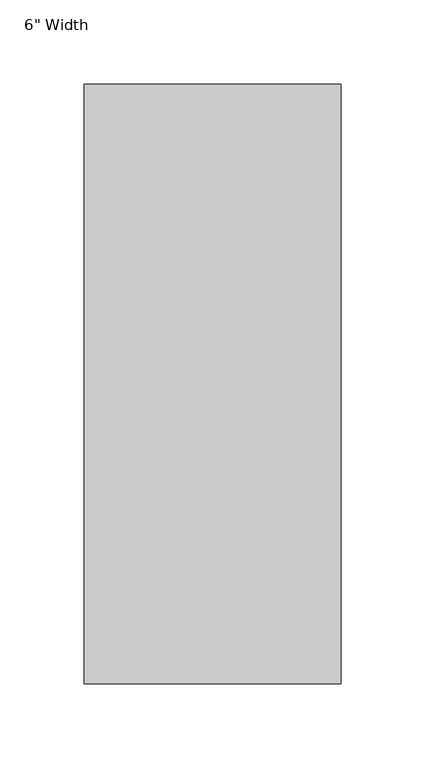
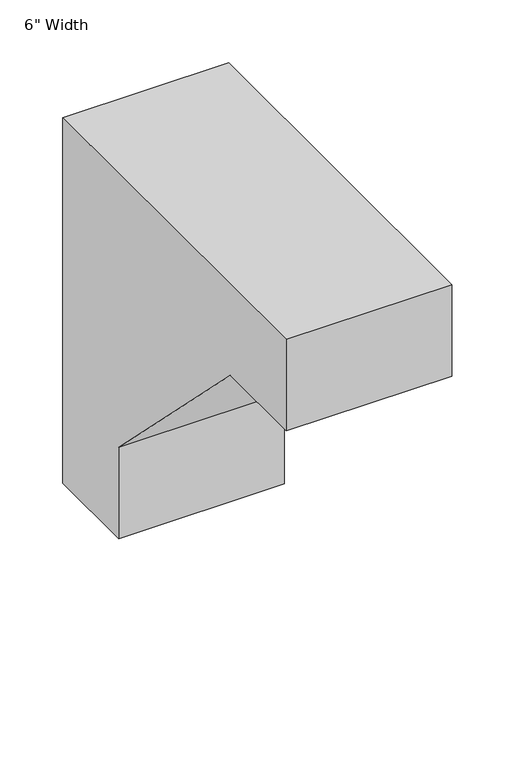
"""IFC4 building model written with IfcOpenShell, lengths in millimetres: proxy geometry."""

from ifc_helpers import new_model, si_unit, frame, origin, place, context, project, spatial, polyline, outline, extrude, source, transform, mapped, element, save


def proxy_4c7fc27a(model_context):
    return source(origin(), model_context, "Body", "SweptSolid", [
        extrude(outline(polyline([(-44.45, 88.9), (-222.25, 266.7), (-311.15, 266.7), (-311.15, 355.6), (44.45, 355.6), (44.45, 0.0), (-44.45, 0.0), (-44.45, 88.9)])), frame((-76.2, 0.0, 0.0), z_axis=(1.0, 0.0, 0.0), x_axis=(0.0, 1.0, 0.0)), (0.0, 0.0, 1.0), 152.4),
    ])


if __name__ == "__main__":
    model = new_model("IFC4")
    model_context = context("Model", 3, world=origin())
    ifc_project = project(units=[si_unit("LENGTHUNIT", "METRE", prefix="MILLI")], contexts=[model_context])
    site = spatial("IfcSite", under=ifc_project)
    building = spatial("IfcBuilding", under=site)
    placement = place(None, origin())
    proxy_shape = proxy_4c7fc27a(model_context)
    element("IfcBuildingElementProxy", 1, Name="Elbow-Wallduct-Wiremold-Vertical-Sweep : 6\" Width", ObjectType="Elbow-Wallduct-Wiremold-Vertical-Sweep : 6\" Width", at=placement, inside=building, context=model_context, shape_type="MappedRepresentation", body=[
        mapped(proxy_shape, transform((0.0, 0.0, 0.0), x_axis=(1.0, 0.0, 0.0), y_axis=(0.0, 1.0, 0.0), z_axis=(0.0, 0.0, 1.0))),
    ])
    save(model, "model.ifc")
